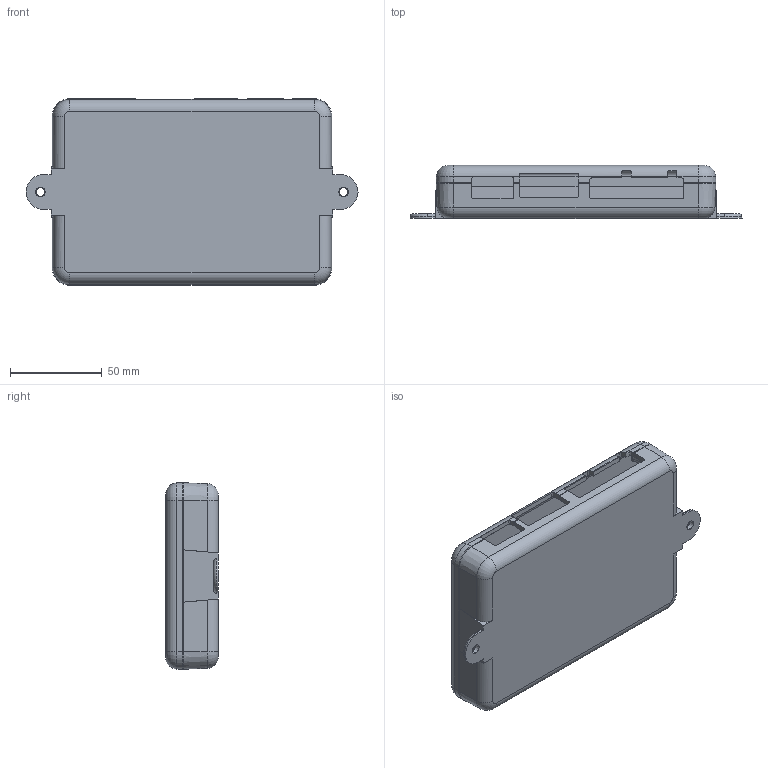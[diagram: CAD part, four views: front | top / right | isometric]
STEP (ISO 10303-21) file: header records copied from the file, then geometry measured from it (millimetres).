
FILE_DESCRIPTION (( 'STEP AP214' ), '1' );
FILE_NAME ('11930A.STEP', '2022-10-05T18:15:33', ( '' ), ( '' ), 'SwSTEP 2.0', 'SolidWorks 2016', '' );
FILE_SCHEMA (( 'AUTOMOTIVE_DESIGN' ));
Length unit declared in the file: inch
Products named in the file (4): 11930AB_J-11930AB; SCREWS-HL5-8-BR_default; 11930A; 11930AC_J-11930AC
Assembly tree (6 placements, depth 2):
  11930A
    11930AB_J-11930AB
    11930AC_J-11930AC
    SCREWS-HL5-8-BR_default  x4
Bounding box: 181.36 x 28.91 x 101.85 mm (x, y, z)
Volume: 100696.3 mm3; surface area: 86838.9 mm2
Topology: 6 solids, 6 shells, 643 faces, 1750 edges, 1138 vertices
Faces by surface type: cylinder 250, plane 217, cone 130, torus 22, bspline 16, sphere 8
Entity records: 13376 total; most frequent: CARTESIAN_POINT 3819, ORIENTED_EDGE 2042, DIRECTION 1942, EDGE_CURVE 1021, AXIS2_PLACEMENT_3D 708, VERTEX_POINT 655, LINE 526, VECTOR 526
